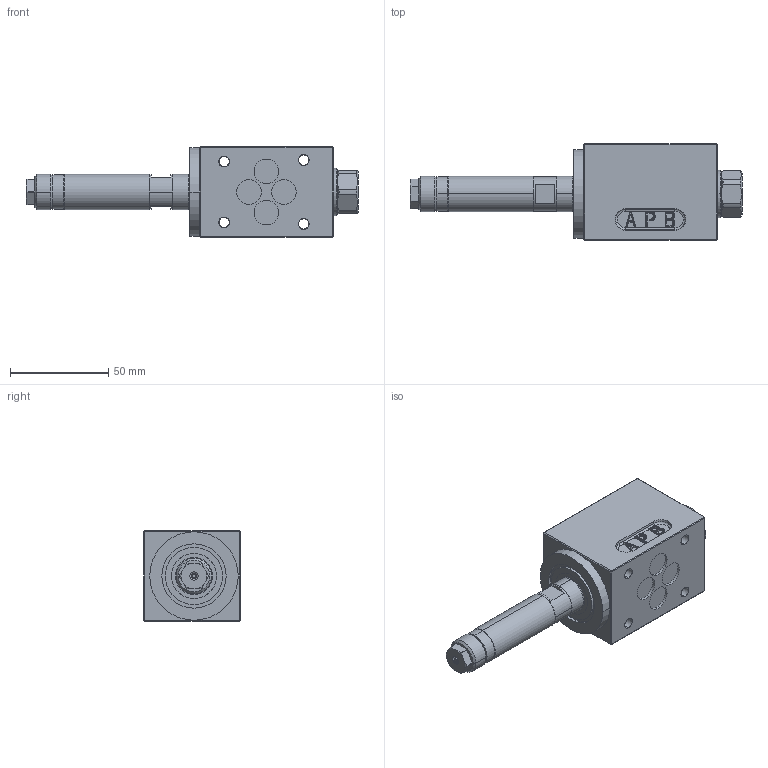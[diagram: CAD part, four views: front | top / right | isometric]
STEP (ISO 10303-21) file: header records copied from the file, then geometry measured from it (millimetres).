
FILE_DESCRIPTION (( 'STEP AP214' ), '1' );
FILE_NAME ('WDYFA06-4_2-Aside.STEP', '2016-04-25T07:27:55', ( '' ), ( '' ), 'SwSTEP 2.0', 'SolidWorks 2014', '' );
FILE_SCHEMA (( 'AUTOMOTIVE_DESIGN' ));
Length unit declared in the file: millimetre
Products named in the file (2): WDYFA06-4_2-Aside
Bounding box: 168.9 x 49 x 46 mm (x, y, z)
Volume: 178810.1 mm3; surface area: 30404.7 mm2
Topology: 3 solids, 3 shells, 1179 faces, 3280 edges, 2129 vertices
Faces by surface type: plane 605, cylinder 446, cone 44, bspline 36, torus 30, sphere 18
Entity records: 52780 total; most frequent: CARTESIAN_POINT 8920, DIRECTION 6590, ORIENTED_EDGE 6526, EDGE_CURVE 3263, AXIS2_PLACEMENT_3D 2322, VERTEX_POINT 2129, LINE 1946, VECTOR 1946
